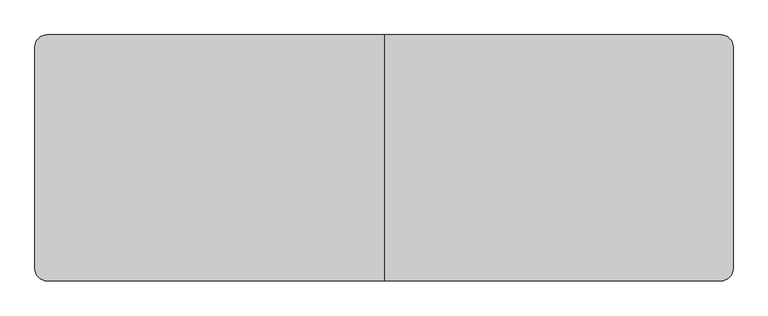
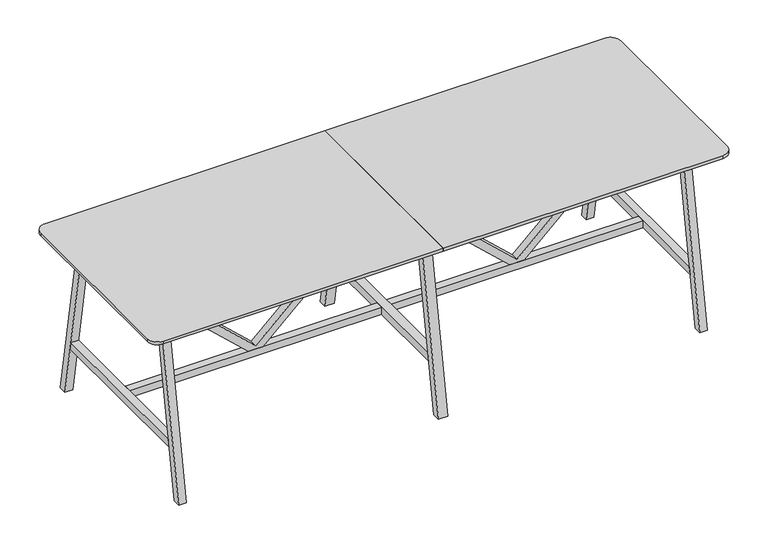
"""IFC4 building model written with IfcOpenShell, lengths in millimetres: furniture geometry, BDG_BossDesign_Tbls_AgentTables6Legs : AGE-HT-6L-3400-1200-3D."""

from ifc_helpers import new_model, si_unit, point, frame, frame_2d, origin, place, context, project, spatial, polyline, circle_curve, trimmed, segment, composite_curve, outline, extrude, source, transform, mapped, element, save


def furniture_83d5880c(model_context):
    return source(origin(), model_context, "Body", "SweptSolid", [
        extrude(outline(polyline([(345.0, 724.0823957), (345.0, 808.4176043), (992.0, 1505.0), (1032.0, 1505.0), (1032.0, 1485.0), (365.0, 766.25), (1032.0, 47.5), (1032.0, 27.5), (992.0, 27.5), (345.0, 724.0823957)])), frame((0.0, -22.5000305, 0.0), z_axis=(0.0, 1.0, 0.0), x_axis=(0.0, 0.0, 1.0)), (0.0, 0.0, 1.0), 45.000061),
        extrude(outline(polyline([(345.0, -724.0823957), (992.0, -27.5), (1032.0, -27.5), (1032.0, -47.5), (365.0, -766.25), (1032.0, -1485.0), (1032.0, -1505.0), (992.0, -1505.0), (345.0, -808.4176043), (345.0, -724.0823957)])), frame((0.0, -22.5000305, 0.0), z_axis=(0.0, 1.0, 0.0), x_axis=(0.0, 0.0, 1.0)), (0.0, 0.0, 1.0), 45.000061),
        extrude(outline(polyline([(600.0, 0.0), (554.9999949, 0.0), (385.5, 970.0), (430.5000051, 970.0), (600.0, 0.0)])), frame((-27.5, 0.0, 0.0), z_axis=(1.0, 0.0, 0.0), x_axis=(0.0, 1.0, 0.0)), (0.0, 0.0, 1.0), 55.0),
        extrude(outline(polyline([(-600.0, 0.0), (-430.5000051, 970.0), (-385.5, 970.0), (-554.9999949, 0.0), (-600.0, 0.0)])), frame((-27.5, 0.0, 0.0), z_axis=(1.0, 0.0, 0.0), x_axis=(0.0, 1.0, 0.0)), (0.0, 0.0, 1.0), 55.0),
        extrude(outline(polyline([(502.5773161, 300.0), (-502.5773161, 300.0), (-494.7139143, 345.0), (494.7139143, 345.0), (502.5773161, 300.0)])), frame((-27.5, 0.0, 0.0), z_axis=(1.0, 0.0, 0.0), x_axis=(0.0, 1.0, 0.0)), (0.0, 0.0, 1.0), 55.0),
        extrude(outline(composite_curve([segment(polyline([(0.0, 600.0), (0.0, -600.0), (-1640.0, -600.0)]), True, "CONTINUOUS"), segment(trimmed(circle_curve(frame_2d((-1640.0, -540.0)), 60.0), [point((-1640.0, -600.0))], [point((-1700.0, -540.0))], False, "CARTESIAN"), True, "CONTINUOUS"), segment(polyline([(-1700.0, -540.0), (-1700.0, 540.0)]), True, "CONTINUOUS"), segment(trimmed(circle_curve(frame_2d((-1640.0, 540.0)), 60.0), [point((-1700.0, 540.0))], [point((-1640.0, 600.0))], False, "CARTESIAN"), True, "CONTINUOUS"), segment(polyline([(-1640.0, 600.0), (0.0, 600.0)]), True, "CONTINUOUS")], self_intersect=False)), frame((0.0, 0.0, 1032.0), z_axis=(0.0, 0.0, 1.0), x_axis=(1.0, 0.0, 0.0)), (0.0, 0.0, 1.0), 18.0),
        extrude(outline(polyline([(-494.7139143, 345.0), (494.7139143, 345.0), (502.5773161, 300.0), (-502.5773161, 300.0), (-494.7139143, 345.0)])), frame((1505.0, 0.0, 0.0), z_axis=(1.0, 0.0, 0.0), x_axis=(0.0, 1.0, 0.0)), (0.0, 0.0, 1.0), 45.0),
        extrude(outline(polyline([(600.0, 0.0), (554.9999949, 0.0), (385.5, 970.0), (430.5000051, 970.0), (600.0, 0.0)])), frame((-1550.0, 0.0, 0.0), z_axis=(1.0, 0.0, 0.0), x_axis=(0.0, 1.0, 0.0)), (0.0, 0.0, 1.0), 45.0),
        extrude(outline(polyline([(-600.0, 0.0), (-430.5000051, 970.0), (-385.5, 970.0), (-554.9999949, 0.0), (-600.0, 0.0)])), frame((-1550.0, 0.0, 0.0), z_axis=(1.0, 0.0, 0.0), x_axis=(0.0, 1.0, 0.0)), (0.0, 0.0, 1.0), 45.0),
        extrude(outline(polyline([(-494.7139143, 345.0), (494.7139143, 345.0), (502.5773161, 300.0), (-502.5773161, 300.0), (-494.7139143, 345.0)])), frame((-1550.0, 0.0, 0.0), z_axis=(1.0, 0.0, 0.0), x_axis=(0.0, 1.0, 0.0)), (0.0, 0.0, 1.0), 45.0),
        extrude(outline(polyline([(-426.6006165, 944.973938), (-404.2770691, 1032.0), (-379.5, 1032.0), (-401.8235474, 944.973938), (-426.6006165, 944.973938)])), frame((-1505.0, 0.0, 0.0), z_axis=(1.0, 0.0, 0.0), x_axis=(0.0, 1.0, 0.0)), (0.0, 0.0, 1.0), 3010.0),
        extrude(outline(polyline([(426.6006165, 944.973938), (401.8235474, 944.973938), (379.5, 1032.0), (404.2770691, 1032.0), (426.6006165, 944.973938)])), frame((-1505.0, 0.0, 0.0), z_axis=(1.0, 0.0, 0.0), x_axis=(0.0, 1.0, 0.0)), (0.0, 0.0, 1.0), 3010.0),
        extrude(outline(polyline([(599.7999878, 0.0), (554.7999827, 0.0), (385.5, 970.0), (430.5000051, 970.0), (599.7999878, 0.0)])), frame((1505.0, 0.0, 0.0), z_axis=(1.0, 0.0, 0.0), x_axis=(0.0, 1.0, 0.0)), (0.0, 0.0, 1.0), 45.0),
        extrude(outline(polyline([(-599.7999878, 0.0), (-430.5000051, 970.0), (-385.5, 970.0), (-554.7999827, 0.0), (-599.7999878, 0.0)])), frame((1505.0, 0.0, 0.0), z_axis=(1.0, 0.0, 0.0), x_axis=(0.0, 1.0, 0.0)), (0.0, 0.0, 1.0), 45.0),
        extrude(outline(polyline([(-27.5, 22.5000305), (-27.5, -22.5000305), (-1505.0, -22.5000305), (-1505.0, 22.5000305), (-27.5, 22.5000305)])), frame((0.0, 0.0, 300.0), z_axis=(0.0, 0.0, 1.0), x_axis=(1.0, 0.0, 0.0)), (0.0, 0.0, 1.0), 45.0),
        extrude(outline(polyline([(27.5, -22.5000305), (27.5, 22.5000305), (1505.0, 22.5000305), (1505.0, -22.5000305), (27.5, -22.5000305)])), frame((0.0, 0.0, 300.0), z_axis=(0.0, 0.0, 1.0), x_axis=(1.0, 0.0, 0.0)), (0.0, 0.0, 1.0), 45.0),
        extrude(outline(composite_curve([segment(trimmed(circle_curve(frame_2d((1640.0, 540.0)), 60.0), [point((1640.0, 600.0))], [point((1700.0, 540.0))], False, "CARTESIAN"), True, "CONTINUOUS"), segment(polyline([(1700.0, 540.0), (1700.0, -540.0)]), True, "CONTINUOUS"), segment(trimmed(circle_curve(frame_2d((1640.0, -540.0)), 60.0), [point((1700.0, -540.0))], [point((1640.0, -600.0))], False, "CARTESIAN"), True, "CONTINUOUS"), segment(polyline([(1640.0, -600.0), (0.0, -600.0), (0.0, 600.0), (1640.0, 600.0)]), True, "CONTINUOUS")], self_intersect=False)), frame((0.0, 0.0, 1032.0), z_axis=(0.0, 0.0, 1.0), x_axis=(1.0, 0.0, 0.0)), (0.0, 0.0, 1.0), 18.0),
    ])


if __name__ == "__main__":
    model = new_model("IFC4")
    model_context = context("Model", 3, world=origin())
    ifc_project = project(units=[si_unit("LENGTHUNIT", "METRE", prefix="MILLI")], contexts=[model_context])
    site = spatial("IfcSite", under=ifc_project)
    building = spatial("IfcBuilding", under=site)
    placement = place(None, origin())
    furniture_shape = furniture_83d5880c(model_context)
    element("IfcFurniture", 1, ObjectType="BDG_BossDesign_Tbls_AgentTables6Legs : AGE-HT-6L-3400-1200-3D", at=placement, inside=building, context=model_context, shape_type="MappedRepresentation", body=[
        mapped(furniture_shape, transform((0.0, 0.0, 0.0), x_axis=(1.0, 0.0, 0.0), y_axis=(0.0, 1.0, 0.0), z_axis=(0.0, 0.0, 1.0))),
    ])
    save(model, "model.ifc")
